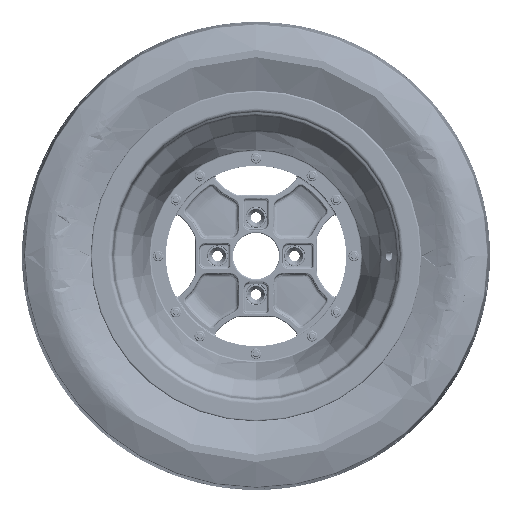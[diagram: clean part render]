
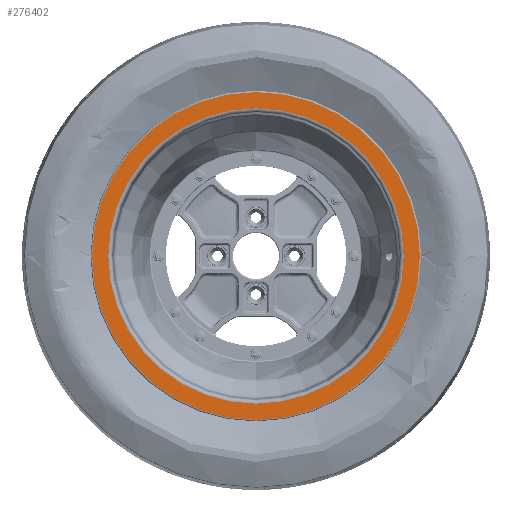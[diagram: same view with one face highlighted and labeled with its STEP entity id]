
A CAD part, left-side view. The second image highlights one B-rep face of the part: STEP entity #276402.
In plain terms, the highlighted planar face has unit normal (-1, 0, 0).
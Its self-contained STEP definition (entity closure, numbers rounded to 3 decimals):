
#6846 = CARTESIAN_POINT ( 'NONE',  ( -171.4, 0., -208.5 ) ) ;
#16118 = CARTESIAN_POINT ( 'NONE',  ( -171.4, 183.344, 0. ) ) ;
#24914 = VERTEX_POINT ( 'NONE', #249575 ) ;
#26403 = ORIENTED_EDGE ( 'NONE', *, *, #130061, .T. ) ;
#28725 = VERTEX_POINT ( 'NONE', #235911 ) ;
#32177 = CIRCLE ( 'NONE', #191872, 208.5 ) ;
#37584 = FACE_OUTER_BOUND ( 'NONE', #161059, .T. ) ;
#40020 = CARTESIAN_POINT ( 'NONE',  ( -171.4, 0., 0. ) ) ;
#49720 = AXIS2_PLACEMENT_3D ( 'NONE', #169172, #256225, #60503 ) ;
#60503 = DIRECTION ( 'NONE',  ( 0., 0., 1. ) ) ;
#60658 = CARTESIAN_POINT ( 'NONE',  ( -171.4, 0., 0. ) ) ;
#72141 = DIRECTION ( 'NONE',  ( -1., 0., 0. ) ) ;
#97450 = AXIS2_PLACEMENT_3D ( 'NONE', #16118, #103302, #190435 ) ;
#100260 = CIRCLE ( 'NONE', #259926, 208.5 ) ;
#103302 = DIRECTION ( 'NONE',  ( -1., 0., 0. ) ) ;
#104168 = EDGE_CURVE ( 'NONE', #160322, #24914, #100260, .T. ) ;
#124774 = FACE_BOUND ( 'NONE', #245271, .T. ) ;
#127211 = DIRECTION ( 'NONE',  ( -1., 0., 0. ) ) ;
#130061 = EDGE_CURVE ( 'NONE', #28725, #131686, #167758, .T. ) ;
#131686 = VERTEX_POINT ( 'NONE', #255402 ) ;
#147861 = DIRECTION ( 'NONE',  ( 1., 0., 0. ) ) ;
#154624 = EDGE_CURVE ( 'NONE', #131686, #28725, #172940, .T. ) ;
#157591 = EDGE_CURVE ( 'NONE', #24914, #160322, #32177, .T. ) ;
#159364 = DIRECTION ( 'NONE',  ( 0., 0., 1. ) ) ;
#160322 = VERTEX_POINT ( 'NONE', #6846 ) ;
#161059 = EDGE_LOOP ( 'NONE', ( #203802, #181666 ) ) ;
#167758 = CIRCLE ( 'NONE', #204195, 187.926 ) ;
#169172 = CARTESIAN_POINT ( 'NONE',  ( -171.4, 0., 0. ) ) ;
#172940 = CIRCLE ( 'NONE', #49720, 187.926 ) ;
#181666 = ORIENTED_EDGE ( 'NONE', *, *, #104168, .T. ) ;
#190435 = DIRECTION ( 'NONE',  ( 0., 0., 1. ) ) ;
#191872 = AXIS2_PLACEMENT_3D ( 'NONE', #40020, #127211, #214302 ) ;
#203802 = ORIENTED_EDGE ( 'NONE', *, *, #157591, .T. ) ;
#204195 = AXIS2_PLACEMENT_3D ( 'NONE', #60658, #147861, #234959 ) ;
#211868 = PLANE ( 'NONE',  #97450 ) ;
#214302 = DIRECTION ( 'NONE',  ( 0., 0., 1. ) ) ;
#234959 = DIRECTION ( 'NONE',  ( 0., 0., 1. ) ) ;
#235911 = CARTESIAN_POINT ( 'NONE',  ( -171.4, 0., 187.926 ) ) ;
#245271 = EDGE_LOOP ( 'NONE', ( #26403, #259354 ) ) ;
#249575 = CARTESIAN_POINT ( 'NONE',  ( -171.4, 0., 208.5 ) ) ;
#255402 = CARTESIAN_POINT ( 'NONE',  ( -171.4, 0., -187.926 ) ) ;
#256225 = DIRECTION ( 'NONE',  ( 1., 0., 0. ) ) ;
#259354 = ORIENTED_EDGE ( 'NONE', *, *, #154624, .T. ) ;
#259926 = AXIS2_PLACEMENT_3D ( 'NONE', #267847, #72141, #159364 ) ;
#267847 = CARTESIAN_POINT ( 'NONE',  ( -171.4, 0., 0. ) ) ;
#276402 = ADVANCED_FACE ( 'NONE', ( #37584, #124774 ), #211868, .T. ) ;
